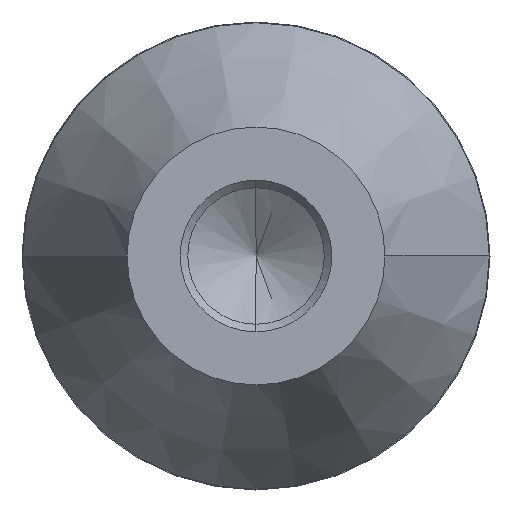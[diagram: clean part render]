
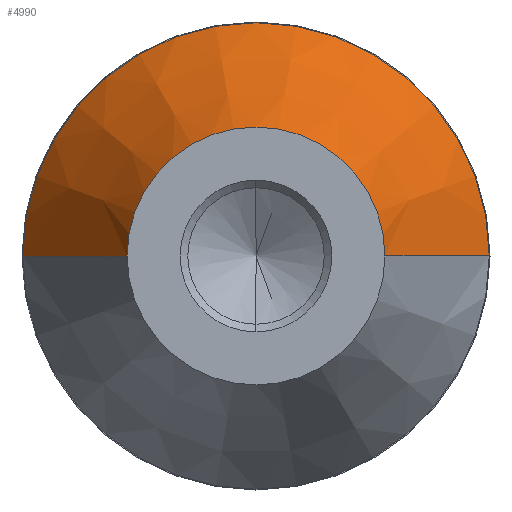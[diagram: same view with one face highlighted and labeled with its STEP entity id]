
A CAD part, left-side view. The second image highlights one B-rep face of the part: STEP entity #4990.
In plain terms, the highlighted conical face has half-angle 29.809 degrees and reference radius 3.905 mm.
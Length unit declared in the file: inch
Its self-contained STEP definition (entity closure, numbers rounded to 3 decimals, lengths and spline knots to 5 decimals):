
#2244 = CIRCLE ( 'NONE', #2245, 0.15375 ) ;
#2245 = AXIS2_PLACEMENT_3D ( 'NONE', #8528, #8530, #8531 ) ;
#4737 = CONICAL_SURFACE ( 'NONE', #4739, 0.15375, 0.52 ) ;
#4739 = AXIS2_PLACEMENT_3D ( 'NONE', #7262, #7261, #7263 ) ;
#4990 = ADVANCED_FACE ( 'NONE', ( #7260 ), #4737, .T. ) ;
#5115 = EDGE_CURVE ( 'NONE', #5869, #5898, #2244, .T. ) ;
#5869 = VERTEX_POINT ( 'NONE', #8925 ) ;
#5898 = VERTEX_POINT ( 'NONE', #8954 ) ;
#5918 = EDGE_LOOP ( 'NONE', ( #6176, #6177, #6178, #6179 ) ) ;
#6176 = ORIENTED_EDGE ( 'NONE', *, *, #6552, .F. ) ;
#6177 = ORIENTED_EDGE ( 'NONE', *, *, #6553, .T. ) ;
#6178 = ORIENTED_EDGE ( 'NONE', *, *, #5115, .T. ) ;
#6179 = ORIENTED_EDGE ( 'NONE', *, *, #6554, .F. ) ;
#6253 = VERTEX_POINT ( 'NONE', #9020 ) ;
#6256 = VERTEX_POINT ( 'NONE', #9023 ) ;
#6552 = EDGE_CURVE ( 'NONE', #6253, #6256, #9194, .T. ) ;
#6553 = EDGE_CURVE ( 'NONE', #6253, #5869, #9544, .T. ) ;
#6554 = EDGE_CURVE ( 'NONE', #6256, #5898, #9549, .T. ) ;
#7260 = FACE_OUTER_BOUND ( 'NONE', #5918, .T. ) ;
#7261 = DIRECTION ( 'NONE',  ( 1., 0., 0. ) ) ;
#7262 = CARTESIAN_POINT ( 'NONE',  ( 0.12, 0., 0. ) ) ;
#7263 = DIRECTION ( 'NONE',  ( 0., 1., 0. ) ) ;
#8528 = CARTESIAN_POINT ( 'NONE',  ( 0.12, 0., 0. ) ) ;
#8530 = DIRECTION ( 'NONE',  ( -1., 0., 0. ) ) ;
#8531 = DIRECTION ( 'NONE',  ( 0., -1., 0. ) ) ;
#8925 = CARTESIAN_POINT ( 'NONE',  ( 0.12, -0.15375, 0. ) ) ;
#8954 = CARTESIAN_POINT ( 'NONE',  ( 0.12, 0.15375, 0. ) ) ;
#9020 = CARTESIAN_POINT ( 'NONE',  ( 0., -0.085, 0. ) ) ;
#9023 = CARTESIAN_POINT ( 'NONE',  ( 0., 0.085, 0. ) ) ;
#9194 = CIRCLE ( 'NONE', #9201, 0.085 ) ;
#9198 = VECTOR ( 'NONE', #9548, 39.37008 ) ;
#9201 = AXIS2_PLACEMENT_3D ( 'NONE', #9545, #9546, #9547 ) ;
#9202 = VECTOR ( 'NONE', #9551, 39.37008 ) ;
#9540 = CARTESIAN_POINT ( 'NONE',  ( 0.12, -0.15375, 0. ) ) ;
#9544 = LINE ( 'NONE', #9540, #9198 ) ;
#9545 = CARTESIAN_POINT ( 'NONE',  ( 0., 0., 0. ) ) ;
#9546 = DIRECTION ( 'NONE',  ( -1., 0., 0. ) ) ;
#9547 = DIRECTION ( 'NONE',  ( 0., -1., 0. ) ) ;
#9548 = DIRECTION ( 'NONE',  ( 0.868, -0.497, 0. ) ) ;
#9549 = LINE ( 'NONE', #9550, #9202 ) ;
#9550 = CARTESIAN_POINT ( 'NONE',  ( 0.12, 0.15375, 0. ) ) ;
#9551 = DIRECTION ( 'NONE',  ( 0.868, 0.497, 0. ) ) ;
